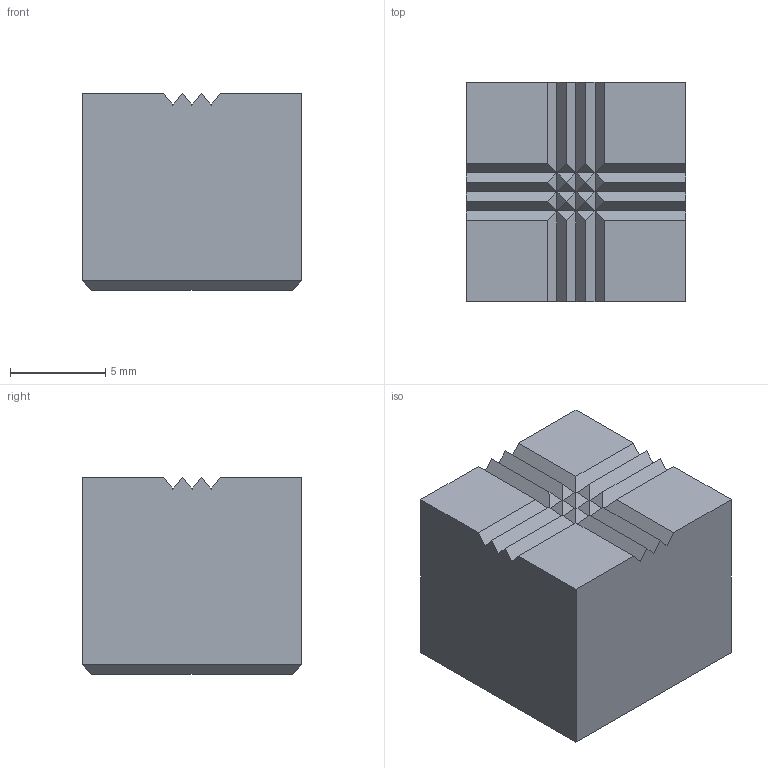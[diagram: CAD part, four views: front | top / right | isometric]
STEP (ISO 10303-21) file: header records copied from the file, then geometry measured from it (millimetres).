
FILE_DESCRIPTION((''),'2;1');
FILE_NAME('3532W005.stp','2001-04-09T10:42:13',(''),(''),'AutoCAD STEP 2000i','AutoCAD 2000i',', , ');
FILE_SCHEMA(('CONFIG_CONTROL_DESIGN'));
Length unit declared in the file: millimetre
Products named in the file (2): 3532A-MDTA; 3532A-MDT
Assembly tree (1 placements, depth 2):
  3532A-MDTA
    3532A-MDT
Bounding box: 11.51 x 11.51 x 10.32 mm (x, y, z)
Volume: 1342.7 mm3; surface area: 756.4 mm2
Topology: 1 solids, 1 shells, 61 faces, 124 edges, 65 vertices
Faces by surface type: plane 61
Entity records: 1603 total; most frequent: CARTESIAN_POINT 252, DIRECTION 250, ORIENTED_EDGE 248, VECTOR 124, LINE 124, EDGE_CURVE 124, VERTEX_POINT 65, AXIS2_PLACEMENT_3D 63
